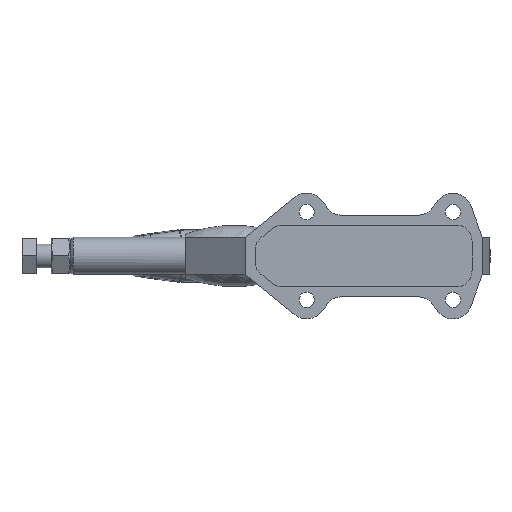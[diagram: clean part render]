
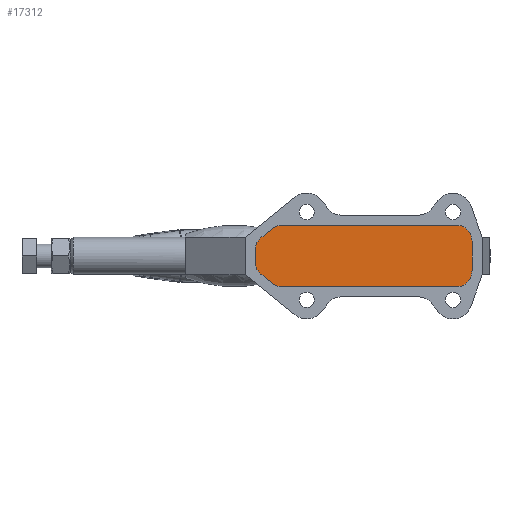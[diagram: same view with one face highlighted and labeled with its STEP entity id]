
A CAD part, front view. The second image highlights one B-rep face of the part: STEP entity #17312.
In plain terms, the highlighted planar face has unit normal (0, -1, 0).
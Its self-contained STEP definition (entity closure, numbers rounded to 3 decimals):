
#103 = CARTESIAN_POINT ( 'NONE',  ( -56.131, 5., -11. ) ) ;
#573 = CIRCLE ( 'NONE', #16328, 10. ) ;
#1279 = CARTESIAN_POINT ( 'NONE',  ( -56.131, 5., 21. ) ) ;
#1615 = ORIENTED_EDGE ( 'NONE', *, *, #6367, .T. ) ;
#1762 = CARTESIAN_POINT ( 'NONE',  ( 64., 5., -9.793 ) ) ;
#1830 = CARTESIAN_POINT ( 'NONE',  ( 63.567, 5., -11. ) ) ;
#1967 = EDGE_CURVE ( 'NONE', #29292, #32032, #26902, .T. ) ;
#2184 = ORIENTED_EDGE ( 'NONE', *, *, #21424, .T. ) ;
#2415 = AXIS2_PLACEMENT_3D ( 'NONE', #38801, #2606, #25703 ) ;
#2606 = DIRECTION ( 'NONE',  ( 0., -1., 0. ) ) ;
#2706 = ORIENTED_EDGE ( 'NONE', *, *, #42374, .T. ) ;
#2905 = ORIENTED_EDGE ( 'NONE', *, *, #3538, .T. ) ;
#3133 = CIRCLE ( 'NONE', #35642, 10. ) ;
#3296 = ORIENTED_EDGE ( 'NONE', *, *, #35199, .T. ) ;
#3393 = DIRECTION ( 'NONE',  ( 0., 0., -1. ) ) ;
#3538 = EDGE_CURVE ( 'NONE', #20051, #24742, #12355, .T. ) ;
#3865 = LINE ( 'NONE', #27594, #31236 ) ;
#3974 = CARTESIAN_POINT ( 'NONE',  ( 73.413, 5., 13.17 ) ) ;
#4790 = CIRCLE ( 'NONE', #27005, 10. ) ;
#5067 = DIRECTION ( 'NONE',  ( 0., 0., -1. ) ) ;
#5125 = DIRECTION ( 'NONE',  ( 0., 0., -1. ) ) ;
#5715 = ORIENTED_EDGE ( 'NONE', *, *, #22203, .T. ) ;
#6007 = CARTESIAN_POINT ( 'NONE',  ( 72.979, 5., -14.377 ) ) ;
#6367 = EDGE_CURVE ( 'NONE', #30138, #10289, #29781, .T. ) ;
#6893 = VECTOR ( 'NONE', #9322, 1000. ) ;
#7280 = LINE ( 'NONE', #31757, #24837 ) ;
#7375 = ORIENTED_EDGE ( 'NONE', *, *, #21347, .T. ) ;
#7560 = CIRCLE ( 'NONE', #22247, 10. ) ;
#7870 = DIRECTION ( 'NONE',  ( -0.778, 0., -0.629 ) ) ;
#8151 = VERTEX_POINT ( 'NONE', #26977 ) ;
#8160 = ORIENTED_EDGE ( 'NONE', *, *, #33493, .T. ) ;
#9322 = DIRECTION ( 'NONE',  ( -1., 0., 0. ) ) ;
#10289 = VERTEX_POINT ( 'NONE', #19098 ) ;
#10434 = VERTEX_POINT ( 'NONE', #32955 ) ;
#10581 = CARTESIAN_POINT ( 'NONE',  ( 63.567, 5., -21. ) ) ;
#10636 = VERTEX_POINT ( 'NONE', #37260 ) ;
#11319 = CARTESIAN_POINT ( 'NONE',  ( -70.289, 5., 12.41 ) ) ;
#11835 = CIRCLE ( 'NONE', #11887, 10. ) ;
#11887 = AXIS2_PLACEMENT_3D ( 'NONE', #17098, #40145, #20399 ) ;
#11988 = DIRECTION ( 'NONE',  ( -0.338, 0., 0.941 ) ) ;
#12355 = CIRCLE ( 'NONE', #14260, 10. ) ;
#12426 = CARTESIAN_POINT ( 'NONE',  ( -62.419, 5., -18.775 ) ) ;
#12670 = CARTESIAN_POINT ( 'NONE',  ( -56.131, 5., 11. ) ) ;
#12707 = CARTESIAN_POINT ( 'NONE',  ( 63.567, 5., 11. ) ) ;
#13125 = AXIS2_PLACEMENT_3D ( 'NONE', #1830, #24909, #5125 ) ;
#13481 = CARTESIAN_POINT ( 'NONE',  ( -64., 5., -4.635 ) ) ;
#13948 = LINE ( 'NONE', #24326, #31483 ) ;
#14032 = EDGE_LOOP ( 'NONE', ( #32947, #20108, #36258, #7375, #3296, #28842, #2184, #14210, #38349, #2905, #5715, #28852, #1615, #8160, #20612, #2706 ) ) ;
#14091 = EDGE_CURVE ( 'NONE', #38307, #30138, #7560, .T. ) ;
#14210 = ORIENTED_EDGE ( 'NONE', *, *, #42436, .T. ) ;
#14260 = AXIS2_PLACEMENT_3D ( 'NONE', #12670, #35733, #15983 ) ;
#14567 = EDGE_CURVE ( 'NONE', #23737, #29659, #24571, .T. ) ;
#14570 = CARTESIAN_POINT ( 'NONE',  ( -74., 5., -9.409 ) ) ;
#14895 = DIRECTION ( 'NONE',  ( 0., -1., 0. ) ) ;
#15785 = VECTOR ( 'NONE', #40938, 1000. ) ;
#15983 = DIRECTION ( 'NONE',  ( 0., 0., -1. ) ) ;
#16019 = DIRECTION ( 'NONE',  ( 0., 0., -1. ) ) ;
#16105 = CARTESIAN_POINT ( 'NONE',  ( 74., 5., 9.793 ) ) ;
#16257 = LINE ( 'NONE', #26265, #31724 ) ;
#16328 = AXIS2_PLACEMENT_3D ( 'NONE', #1762, #24855, #5067 ) ;
#16690 = LINE ( 'NONE', #29104, #6893 ) ;
#16795 = DIRECTION ( 'NONE',  ( 0., 0., -1. ) ) ;
#16921 = VERTEX_POINT ( 'NONE', #17155 ) ;
#17098 = CARTESIAN_POINT ( 'NONE',  ( 64., 5., 9.793 ) ) ;
#17155 = CARTESIAN_POINT ( 'NONE',  ( 74., 5., -9.793 ) ) ;
#17168 = EDGE_CURVE ( 'NONE', #10434, #29292, #3865, .T. ) ;
#17312 = ADVANCED_FACE ( 'NONE', ( #42532 ), #42106, .T. ) ;
#17382 = EDGE_CURVE ( 'NONE', #32032, #8151, #16257, .T. ) ;
#17762 = DIRECTION ( 'NONE',  ( 1., 0., 0. ) ) ;
#18282 = CARTESIAN_POINT ( 'NONE',  ( -74., 5., 4.635 ) ) ;
#18926 = VECTOR ( 'NONE', #34483, 1000. ) ;
#19098 = CARTESIAN_POINT ( 'NONE',  ( -74., 5., -4.635 ) ) ;
#20051 = VERTEX_POINT ( 'NONE', #1279 ) ;
#20108 = ORIENTED_EDGE ( 'NONE', *, *, #1967, .T. ) ;
#20264 = CIRCLE ( 'NONE', #38025, 10. ) ;
#20399 = DIRECTION ( 'NONE',  ( 0., 0., -1. ) ) ;
#20612 = ORIENTED_EDGE ( 'NONE', *, *, #14567, .T. ) ;
#21259 = VERTEX_POINT ( 'NONE', #41543 ) ;
#21347 = EDGE_CURVE ( 'NONE', #8151, #16921, #573, .T. ) ;
#21424 = EDGE_CURVE ( 'NONE', #34220, #21259, #7280, .T. ) ;
#22203 = EDGE_CURVE ( 'NONE', #24742, #38307, #13948, .T. ) ;
#22247 = AXIS2_PLACEMENT_3D ( 'NONE', #34669, #14895, #37981 ) ;
#23160 = DIRECTION ( 'NONE',  ( 0., -1., 0. ) ) ;
#23737 = VERTEX_POINT ( 'NONE', #37142 ) ;
#24188 = LINE ( 'NONE', #42624, #32944 ) ;
#24326 = CARTESIAN_POINT ( 'NONE',  ( -59.669, 5., 21. ) ) ;
#24571 = LINE ( 'NONE', #14570, #15785 ) ;
#24742 = VERTEX_POINT ( 'NONE', #41201 ) ;
#24837 = VECTOR ( 'NONE', #11988, 1000. ) ;
#24855 = DIRECTION ( 'NONE',  ( 0., -1., 0. ) ) ;
#24909 = DIRECTION ( 'NONE',  ( 0., -1., 0. ) ) ;
#25703 = DIRECTION ( 'NONE',  ( 0., 0., -1. ) ) ;
#26265 = CARTESIAN_POINT ( 'NONE',  ( 70.603, 5., -21. ) ) ;
#26902 = CIRCLE ( 'NONE', #13125, 10. ) ;
#26977 = CARTESIAN_POINT ( 'NONE',  ( 73.413, 5., -13.17 ) ) ;
#27005 = AXIS2_PLACEMENT_3D ( 'NONE', #103, #23160, #3393 ) ;
#27594 = CARTESIAN_POINT ( 'NONE',  ( -59.669, 5., -21. ) ) ;
#27864 = CARTESIAN_POINT ( 'NONE',  ( -74., 5., 9.409 ) ) ;
#28842 = ORIENTED_EDGE ( 'NONE', *, *, #34136, .T. ) ;
#28852 = ORIENTED_EDGE ( 'NONE', *, *, #14091, .T. ) ;
#29104 = CARTESIAN_POINT ( 'NONE',  ( 70.603, 5., 21. ) ) ;
#29292 = VERTEX_POINT ( 'NONE', #10581 ) ;
#29570 = DIRECTION ( 'NONE',  ( 0.338, 0., 0.941 ) ) ;
#29659 = VERTEX_POINT ( 'NONE', #12426 ) ;
#29781 = LINE ( 'NONE', #27864, #18926 ) ;
#30138 = VERTEX_POINT ( 'NONE', #18282 ) ;
#31236 = VECTOR ( 'NONE', #17762, 1000. ) ;
#31483 = VECTOR ( 'NONE', #7870, 1000. ) ;
#31724 = VECTOR ( 'NONE', #29570, 1000. ) ;
#31757 = CARTESIAN_POINT ( 'NONE',  ( 74., 5., 11.532 ) ) ;
#32032 = VERTEX_POINT ( 'NONE', #6007 ) ;
#32063 = VERTEX_POINT ( 'NONE', #16105 ) ;
#32944 = VECTOR ( 'NONE', #36011, 1000. ) ;
#32947 = ORIENTED_EDGE ( 'NONE', *, *, #17168, .T. ) ;
#32955 = CARTESIAN_POINT ( 'NONE',  ( -56.131, 5., -21. ) ) ;
#33493 = EDGE_CURVE ( 'NONE', #10289, #23737, #3133, .T. ) ;
#34136 = EDGE_CURVE ( 'NONE', #32063, #34220, #11835, .T. ) ;
#34220 = VERTEX_POINT ( 'NONE', #3974 ) ;
#34483 = DIRECTION ( 'NONE',  ( 0., 0., -1. ) ) ;
#34669 = CARTESIAN_POINT ( 'NONE',  ( -64., 5., 4.635 ) ) ;
#35199 = EDGE_CURVE ( 'NONE', #16921, #32063, #24188, .T. ) ;
#35642 = AXIS2_PLACEMENT_3D ( 'NONE', #13481, #36555, #16795 ) ;
#35733 = DIRECTION ( 'NONE',  ( 0., -1., 0. ) ) ;
#35767 = DIRECTION ( 'NONE',  ( 0., -1., 0. ) ) ;
#36011 = DIRECTION ( 'NONE',  ( 0., 0., 1. ) ) ;
#36258 = ORIENTED_EDGE ( 'NONE', *, *, #17382, .T. ) ;
#36555 = DIRECTION ( 'NONE',  ( 0., -1., 0. ) ) ;
#37142 = CARTESIAN_POINT ( 'NONE',  ( -70.289, 5., -12.41 ) ) ;
#37260 = CARTESIAN_POINT ( 'NONE',  ( 63.567, 5., 21. ) ) ;
#37981 = DIRECTION ( 'NONE',  ( 0., 0., -1. ) ) ;
#38025 = AXIS2_PLACEMENT_3D ( 'NONE', #12707, #35767, #16019 ) ;
#38307 = VERTEX_POINT ( 'NONE', #11319 ) ;
#38349 = ORIENTED_EDGE ( 'NONE', *, *, #42275, .T. ) ;
#38801 = CARTESIAN_POINT ( 'NONE',  ( 0., 5., 0. ) ) ;
#40145 = DIRECTION ( 'NONE',  ( 0., -1., 0. ) ) ;
#40938 = DIRECTION ( 'NONE',  ( 0.778, 0., -0.629 ) ) ;
#41201 = CARTESIAN_POINT ( 'NONE',  ( -62.419, 5., 18.775 ) ) ;
#41543 = CARTESIAN_POINT ( 'NONE',  ( 72.979, 5., 14.377 ) ) ;
#42106 = PLANE ( 'NONE',  #2415 ) ;
#42275 = EDGE_CURVE ( 'NONE', #10636, #20051, #16690, .T. ) ;
#42374 = EDGE_CURVE ( 'NONE', #29659, #10434, #4790, .T. ) ;
#42436 = EDGE_CURVE ( 'NONE', #21259, #10636, #20264, .T. ) ;
#42532 = FACE_OUTER_BOUND ( 'NONE', #14032, .T. ) ;
#42624 = CARTESIAN_POINT ( 'NONE',  ( 74., 5., -11.532 ) ) ;
